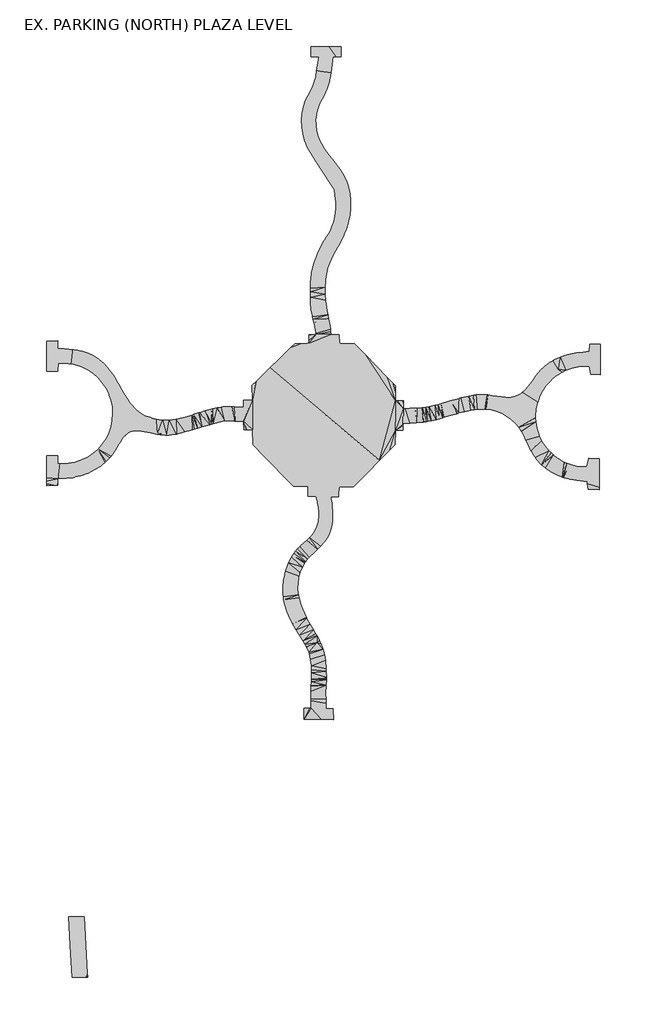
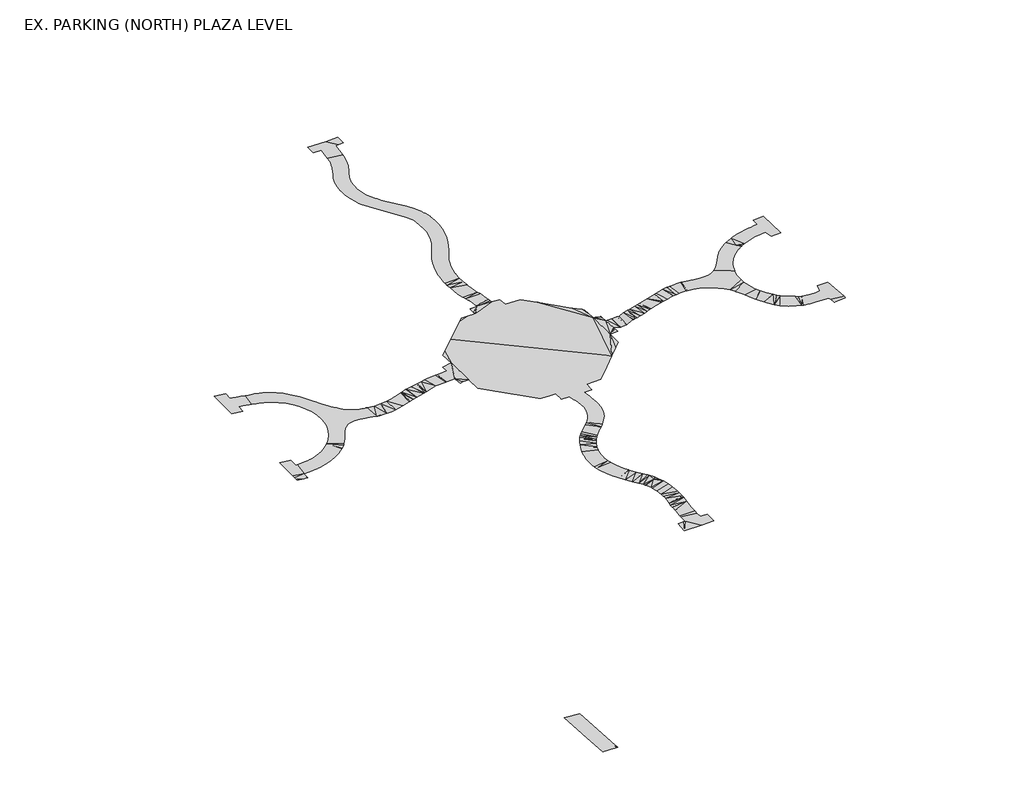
# One storey: 2 proxies.
"""IFC4 building model written with IfcOpenShell, lengths in millimetres."""

from ifc_helpers import new_model, si_unit, origin, place, context, project, spatial, triangles, element, save

model = new_model("IFC4")

# Units and contexts
model_context = context("Model", 3, world=origin())
ifc_project = project(units=[si_unit("LENGTHUNIT", "METRE", prefix="MILLI")], contexts=[model_context])

# Site, building, storey
site = spatial("IfcSite", under=ifc_project)
building = spatial("IfcBuilding", under=site)
storey = spatial("IfcBuildingStorey", under=building, Name="EX. PARKING (NORTH) PLAZA LEVEL", Elevation=290169.6)

# Proxies
placement = place(None, origin())
element("IfcBuildingElementProxy", 1, Name="Building Element Proxy", at=placement, inside=storey, context=model_context, shape_type="Tessellation", body=[
    triangles([(1659.2078808, 199821.5147461, 290510.9373047), (1861.2459846, 196461.7570313, 290489.5060547), (1865.358379, 196393.3705078, 290489.1897949), (2086.697049, 192712.6463379, 290473.5070312), (3472.877845, 192713.6881348, 290404.7112305), (3526.7286278, 192713.7253418, 290402.0881348), (3635.3987389, 192713.8183594, 290397.3070313), (3690.1285378, 192713.8555664, 290394.051416), (3885.7715378, 192714.0043945, 290384.3403809), (3874.2164291, 192906.1601074, 290385.2705566), (3858.3205971, 193170.4788574, 290389.1772949), (3460.4175591, 199787.3400879, 290431.3886719)], [[11, 3, 4], [12, 3, 11], [1, 2, 12], [12, 2, 3], [11, 4, 5], [7, 8, 10], [6, 7, 11], [7, 10, 11], [10, 8, 9], [6, 11, 5]], closed=False),
])
element("IfcBuildingElementProxy", 2, Name="Building Element Proxy", at=placement, inside=storey, context=model_context, shape_type="Tessellation", body=[
    triangles([(930.1321066, 264493.5486328, 290609.480127), (1700.6630539, 264447.7653809, 290507.9421387), (1951.4740528, 264399.2846191, 290474.4), (2235.9694782, 264344.3112305, 290474.4), (2458.5333641, 264301.3185059, 290474.4), (2997.6710953, 264121.1992676, 290474.4), (3190.6520485, 264056.7380859, 290474.4), (3884.3724953, 263718.2657227, 290474.4), (4527.7114243, 263291.7243164, 290474.4), (5109.5561417, 262784.4994629, 290474.4), (5619.8558075, 262205.353418, 290474.4), (6049.7958435, 261564.294873, 290474.4), (6391.9493774, 260872.3743164, 290474.4), (6430.6522476, 260758.5394043, 290474.4), (6640.4068863, 260141.5724121, 290474.4), (6790.8750275, 259384.4837402, 290474.4), (6840.7562851, 258614.2051758, 290474.4), (6789.1879211, 257844.0382324, 290474.4), (6637.0611603, 257087.2844238, 290474.4), (6387.0037491, 256357.0220215, 290474.4), (6043.3351913, 255665.864209, 290474.4), (5611.9917526, 255025.7358398, 290474.4), (5100.4247223, 254447.7060059, 290474.4), (4517.4701889, 253941.7647949, 290474.4), (3873.198468, 253516.6558594, 290474.4), (3178.7382408, 253179.6903809, 290474.4), (2878.9292152, 253080.2545898, 290474.4), (2446.0855774, 252936.7098633, 290474.4), (2112.7418255, 252873.0672363, 290474.4), (2009.4048191, 252853.3289063, 290474.4), (1687.896246, 252791.9373047, 290474.4), (917.2668308, 252747.8283691, 290474.4), (638.2296478, 252744.9448242, 290474.4), (403.263067, 252742.5263672, 290505.1144043), (386.3405897, 253673.2602539, 290521.0576172), (-898.8900455, 253669.186084, 290689.2147949), (-895.4728123, 251091.7806152, 290650.7613281), (-894.9464636, 250694.7443848, 290629.720752), (-894.9277874, 250680.6987305, 290629.3300781), (-894.5483774, 250394.5394531, 290624.5489746), (-894.2677259, 250182.8314453, 290610.9125977), (-88.0122877, 250201.6209961, 290525.8573242), (348.0125876, 250211.7599121, 290474.4), (371.4647172, 250212.3180176, 290474.4), (372.8776033, 250390.0932129, 290474.4), (377.7810831, 251007.0974121, 290482.8645996), (442.6727981, 251009.4972656, 290474.4), (891.2075203, 251026.0171875, 290474.4), (1404.0958363, 251056.1920898, 290474.4), (1961.5089054, 251120.5230469, 290474.4), (1976.078801, 251122.2159668, 290474.4), (1993.0747112, 251124.1693359, 290474.4), (2259.1778, 251154.8837402, 290474.4), (2383.274295, 251183.5889648, 290474.4), (2403.3944332, 251188.2584473, 290474.4), (2418.7089054, 251191.7931152, 290474.4), (3097.780101, 251348.9184082, 290474.4), (3909.304985, 251635.8590332, 290474.4), (3951.9090706, 251656.5647461, 290474.4), (4683.4972641, 252012.0593262, 290474.4), (5410.5726517, 252472.7939941, 290474.4), (5673.7019394, 252684.3903809, 290474.4), (5858.8330811, 252833.2743164, 290474.4), (5953.9644836, 252909.7719727, 290474.4), (6081.3439178, 253012.2029297, 290470.6234863), (6478.8958145, 253414.5411621, 290469.9165527), (6629.246521, 253602.0087891, 290474.4), (6832.7759583, 253855.7607422, 290474.4), (7139.2020218, 254331.1921875, 290474.4), (7309.9171829, 254626.5043945, 290474.4), (7478.8644287, 254922.8583984, 290474.4), (7521.0287155, 254993.7936035, 290474.4), (7612.5835922, 255147.8121094, 290474.4), (7615.5857346, 255152.8536621, 290474.4), (7659.2795792, 255226.3561523, 290474.4), (7676.0529739, 255252.140625, 290474.4), (7681.3654404, 255260.3075684, 290474.4), (7851.8515457, 255522.3194824, 290474.4), (7956.1695969, 255667.8733887, 290474.4), (8066.1268387, 255809.2229004, 290474.4), (8238.4517853, 256005.7504395, 290474.4), (8272.3514603, 256037.7484863, 290474.4), (8280.0306427, 256044.9852539, 290474.4), (8285.0285934, 256049.7105469, 290474.4), (8428.5285553, 256185.1441406, 290474.4), (8627.0914352, 256334.1396973, 290474.4), (8845.4693848, 256452.1790039, 290474.4), (9077.4662704, 256531.6718262, 290474.4), (9080.5108521, 256532.2485352, 290474.4), (9318.4812103, 256576.9713867, 290474.4), (9575.0382248, 256593.0076172, 290474.4), (9831.9928894, 256585.7336426, 290474.4), (10190.2977631, 256546.6104492, 290474.4), (10545.7202545, 256486.7071289, 290474.4), (11241.910318, 256347.515625, 290474.4), (11939.2607758, 256214.2772461, 290474.4), (12008.7030487, 256203.3011719, 290474.4), (12274.7972717, 256161.164209, 290467.7585449), (12388.4194061, 256147.2673828, 290465.414502), (12427.0856506, 256142.5420898, 290467.0330078), (12494.5861816, 256134.3007324, 290474.4), (12535.9255188, 256129.2405762, 290474.4), (12591.9907013, 256122.3758789, 290474.4), (12611.9987823, 256119.9388184, 290474.4), (13122.5908722, 256090.0987793, 290474.4), (13168.1462311, 256087.4384766, 290474.4), (13381.6018066, 256098.2843262, 290474.4), (13724.5238983, 256115.6972168, 290474.4), (14274.5159088, 256204.3801758, 290474.4), (15249.0017761, 256451.6208984, 290474.4), (15780.6716492, 256586.4963867, 290489.8595215), (16167.3678131, 256709.8004883, 290502.2122559), (16316.8924072, 256757.4626953, 290505.4492676), (16755.5179596, 256897.3239258, 290474.4), (17261.1173309, 257058.5233887, 290474.4), (18231.9255157, 257320.832959, 290474.4), (18364.8964691, 257356.7749512, 290474.4), (18575.774295, 257413.7575195, 290483.4599121), (19894.0996399, 257755.1134277, 290540.5727051), (21047.6687622, 257727.9150879, 290600.0109375), (21177.1376038, 257724.8641113, 290603.4525879), (22135.1070374, 257702.2608398, 290714.9248535), (22163.8076111, 256690.6574707, 290740.6907227), (22498.0174438, 256699.903418, 290779.2), (23186.3289185, 256718.9720215, 290779.2), (23239.962854, 254952.6240234, 290779.2), (24578.4323181, 253581.8611816, 290779.2), (27757.4359497, 250326.1529297, 290779.2), (27950.5450928, 250128.3975586, 290779.2), (28938.8173279, 250092.9950684, 290779.2), (29668.7099854, 250070.3545898, 290779.2), (29674.5956726, 249742.6350586, 290779.2), (29683.7625549, 249232.303418, 290779.2), (29688.8715454, 248947.8556641, 290779.2), (30575.5685852, 248916.6017578, 290779.2), (30689.4476807, 248544.9221191, 290779.2), (30763.4710693, 248281.3103027, 290779.2), (30794.5319641, 248170.6937988, 290779.2), (30916.075708, 247628.9966309, 290779.2), (30965.9959167, 247120.5997559, 290779.2), (30970.325885, 247076.5094238, 290779.2), (30956.4662659, 246521.5293457, 290779.2), (30903.1974243, 246163.7837402, 290779.2), (30874.7038147, 245972.4279785, 290779.2), (30823.9510986, 245789.5182129, 290779.2), (30726.2733398, 245437.4838867, 290779.2), (30545.1960205, 245023.2208008, 290779.2), (30310.0871155, 244637.0304199, 290779.2), (30025.2138062, 244285.9634766, 290779.2), (29824.1656128, 244074.4415039, 290779.2), (29613.4994019, 243872.4817383, 290779.2), (29542.3014221, 243809.3786133, 290779.2), (29171.5473083, 243480.7475098, 290723.5754883), (28732.2043579, 243086.0739258, 290657.0865234), (28710.519635, 243064.9589355, 290653.607666), (28452.7051392, 242813.8672852, 290635.7668945), (28440.5616943, 242800.3611328, 290634.8181152), (28191.867572, 242523.7268555, 290642.9478516), (28024.1847839, 242290.3643555, 290647.1522461), (27851.5116028, 242050.0441406, 290645.310498), (27707.0018188, 241789.4833008, 290641.2549316), (27568.6125916, 241539.9729492, 290614.0007813), (27405.2993042, 241181.5576172, 290576.0496094), (27260.4686096, 240815.2916016, 290537.9868164), (27053.1417297, 240190.9390137, 290474.4), (26892.8422119, 239552.8942383, 290474.4), (26814.2609619, 239099.6381836, 290474.4), (26780.4606995, 238904.6733398, 290474.4), (26779.0305542, 238887.9115723, 290474.4), (26759.4340759, 238658.1209473, 290474.4), (26745.9721069, 238500.2887207, 290474.4), (26722.4386597, 238224.3427734, 290474.4), (26735.2797363, 237541.6495605, 290474.4), (26747.3231873, 237443.9625, 290474.4), (26775.1168396, 237218.5623047, 290474.4), (26818.8420776, 236863.9606934, 290493.1895508), (26972.2303894, 236198.5873535, 290528.0897461), (27214.7481445, 235459.6557129, 290566.5246094), (27515.8204651, 234742.5645996, 290603.4897949), (27864.1154846, 234045.2862305, 290639.1899414), (28247.3176758, 233366.5741699, 290673.6994629), (28657.5810059, 232697.2010742, 290707.5950684), (29080.5575134, 232035.7716797, 290741.0069824), (29334.7443237, 231619.7970703, 290762.0847656), (29464.4154785, 231380.5558594, 290774.2700684), (29492.1951782, 231329.3217773, 290779.2), (29504.6548828, 231306.327832, 290779.2), (29567.0487488, 231191.2092773, 290779.2), (29762.4600769, 230709.210791, 290779.2), (29822.0424866, 230562.2430176, 290779.2), (29981.0769653, 229902.4507324, 290779.2), (30037.8479187, 229513.9907227, 290779.2), (30074.4015015, 229123.1122559, 290779.2), (30087.3518738, 228753.0325195, 290779.2), (30090.3354126, 228667.7912109, 290779.2), (30101.6951843, 228343.1970703, 290730.8122559), (30082.5498413, 227563.0214355, 290611.0056152), (30063.5161194, 227266.5186035, 290564.5898438), (30035.2690063, 226826.4338379, 290583.4538086), (30031.4436584, 226766.8467773, 290583.8444824), (30010.6472534, 226171.5528809, 290589.4813477), (30003.5895447, 225969.5187012, 290564.5898438), (30009.5473206, 225237.0796875, 290474.4), (30011.0704834, 225049.7050781, 290474.4), (30017.9979675, 224198.1477539, 290418.3290039), (29830.9210144, 224191.115625, 290415.9663574), (29205.9963684, 224167.6007813, 290414.7385254), (29186.2185059, 222876.2563477, 290342.9847656), (31162.7071655, 222859.2713379, 290341.7755371), (32616.2998352, 222846.7697754, 290355.8025879), (32571.9560303, 224111.6786133, 290438.718457), (31765.5912964, 224148.0298828, 290432.8769531), (31754.8756714, 224779.5448242, 290474.4), (31747.1877686, 225232.7636719, 290474.4), (31736.014032, 225891.1792969, 290555.4741211), (31782.3646912, 226855.4739258, 290674.2575684), (31800.6170654, 227528.4375, 290757.1362305), (31802.6727539, 227604.2654297, 290756.3548828), (31804.0540649, 227655.2018555, 290753.9364258), (31808.5096069, 227819.4708984, 290779.2), (31808.5398376, 227820.5126953, 290779.2), (31796.217334, 228465.7756348, 290779.2), (31791.0409058, 228736.7916504, 290779.2), (31789.9619019, 228793.3277344, 290780.2231934), (31707.9669067, 229762.8499512, 290792.6317383), (31605.35224, 230430.8835938, 290797.3384277), (31434.0092102, 231084.6669434, 290796.0361816), (31195.7842163, 231717.1678711, 290788.725), (31023.2342834, 232061.8538086, 290781.1905762), (31012.2814636, 232083.7501465, 290780.5208496), (31004.8865662, 232098.5213379, 290779.2), (30956.8801941, 232194.4224609, 290779.2), (30893.2468689, 232321.5402832, 290779.2), (30690.7080688, 232667.5842773, 290779.2), (30598.1532532, 232825.7327637, 290779.2), (30556.374408, 232893.3007324, 290779.2), (30290.9650269, 233322.632666, 290735.3515137), (29883.7875549, 234010.813916, 290666.4999023), (29503.7944702, 234714.3802734, 290598.9505371), (29462.1877075, 234800.6261719, 290591.0626465), (29242.8499329, 235255.2960938, 290567.7710449), (29007.8340454, 235807.9507324, 290539.2890625), (28809.0531555, 236364.3260742, 290510.4350098), (28647.9327576, 236932.7378906, 290480.7437988), (28622.2901367, 237053.5491211, 290474.4), (28539.3626404, 237444.2415527, 290474.4), (28515.0408691, 237558.8206055, 290474.4), (28505.732135, 237665.0652832, 290474.4), (28463.8625977, 238142.9337891, 290474.4), (28459.1745117, 238196.4188965, 290474.4), (28479.4407166, 238786.0759277, 290474.4), (28481.1592163, 238836.0635742, 290474.4), (28564.5983093, 239366.207959, 290474.4), (28580.6694214, 239468.3226563, 290474.4), (28624.2597839, 239621.1319336, 290474.4), (28745.4523865, 240045.9990234, 290517.0206543), (28756.2331238, 240083.8013672, 290518.0996582), (29005.2504822, 240673.4025879, 290531.0663086), (29247.9310181, 241095.9070313, 290537.2426758), (29324.0333496, 241228.4012695, 290536.0706543), (29383.5343689, 241306.5732422, 290534.4335449), (29615.8364685, 241611.7453125, 290555.939209), (29797.6835083, 241805.4451172, 290569.6686035), (29945.5791321, 241962.9796875, 290594.8019531), (30226.0945679, 242229.1959961, 290638.8364746), (30512.0375793, 242489.5708008, 290682.4989258), (30799.9734924, 242755.9731445, 290726.9427246), (31078.7564758, 243031.9376953, 290771.9818359), (31119.5307312, 243078.0, 290779.2), (31532.6938843, 243544.687793, 290779.2), (31926.6140259, 244104.8396484, 290779.2), (32187.2678833, 244606.2416016, 290779.2), (32374.7982971, 245139.3067383, 290779.2), (32485.4775879, 245693.4682617, 290779.2), (32526.4541565, 246074.7473145, 290779.2), (32530.6352966, 246172.9180664, 290779.2), (32540.3533081, 246401.0157715, 290779.2), (32542.776416, 246457.8681152, 290779.2), (32539.4347595, 246852.5416992, 290779.2), (32531.4166443, 247010.7832031, 290779.2), (32519.4638855, 247246.7315918, 290779.2), (32485.7845459, 247649.7581543, 290779.2), (32442.4081238, 248051.8731445, 290779.2), (32393.1250854, 248458.8436523, 290779.2), (32373.9053284, 248601.7558594, 290779.2), (32338.4842346, 248865.1630371, 290779.2), (33248.4984558, 248865.6467285, 290779.2), (33256.8026001, 249389.3729004, 290779.2), (33261.0442017, 249657.0216797, 290779.2), (33266.1624939, 249979.7926758, 290779.2), (34952.4921204, 250029.0361816, 290779.2), (36605.6633057, 251694.4787109, 290779.2), (38043.9894653, 253143.4879395, 290779.2), (39201.597876, 254309.6865234, 290729.6774414), (39855.3440186, 254968.2881836, 290729.9937012), (39896.0903687, 256602.3837891, 290695.3725586), (40792.6030884, 256648.8553711, 290714.4597656), (40789.4823486, 257257.5437988, 290701.158252), (40788.6498413, 257420.0083008, 290687.2986328), (41576.8063843, 257463.5591309, 290482.2692871), (41606.8696655, 257465.7543457, 290474.4), (42188.2806885, 257508.0773438, 290474.4), (42324.8909546, 257518.0302246, 290474.4), (42364.0746094, 257520.8765625, 290488.724707), (42949.8342041, 257581.2263672, 290702.3116699), (43143.1247314, 257608.0712402, 290772.5771484), (43146.2222168, 257608.4991211, 290771.5539551), (43171.5927612, 257612.0151855, 290779.2), (43283.2185059, 257627.5119141, 290779.2), (43533.1009277, 257662.2074707, 290779.2), (43675.6829224, 257688.7546875, 290779.2), (44110.8470581, 257769.772998, 290820.6300293), (44683.0121338, 257903.9043457, 290875.4173828), (45062.9191772, 258004.3819336, 290911.936084), (45441.0960937, 258111.1661133, 290948.3803711), (45560.6329834, 258147.2941406, 290959.9145508), (46384.4710693, 258396.3394043, 290969.9790527), (47125.7700073, 258610.6146973, 290979.8575195), (47331.2458374, 258669.9971191, 290969.2349121), (47902.6993286, 258819.829834, 290940.8645508), (47926.6420532, 258825.243457, 290939.7297363), (48478.9432251, 258949.9986328, 290954.3707031), (48735.5136108, 258996.1725586, 290961.8679199), (49125.7037476, 259066.3822266, 290947.4874023), (49467.4084717, 259096.631543, 290936.4741211), (49780.2916992, 259124.3321777, 290942.6876953), (50341.3597778, 259123.4950195, 290956.1752441), (50437.4422852, 259123.3647949, 290954.798584), (51081.114624, 259031.184375, 290949.1617188), (51709.0716431, 258862.4318848, 290946.7432617), (52151.3702271, 258684.3032227, 290947.3571777), (52312.2348267, 258619.5071777, 290945.7572754), (52881.879126, 258305.9635254, 290943.5992676), (53409.7724854, 257926.3029785, 290945.2921875), (53888.2874634, 257486.0507812, 290950.8360352), (54310.4989014, 256991.5321289, 290960.1005859), (54625.6610596, 256517.1052734, 290971.3929199), (54670.3048462, 256449.909375, 290968.9744629), (54861.7536255, 256106.1722168, 290958.8913574), (55038.4777222, 255754.621582, 290949.7384277), (55156.4984253, 255500.7021973, 290943.7294922), (55536.9263672, 254682.2033203, 290957.5146973), (55745.3043457, 254266.0054688, 290963.7654785), (55756.8338745, 254242.9743164, 290963.5608398), (55999.5539429, 253815.9306152, 290957.9425781), (56236.9627075, 253490.629541, 290950.1477051), (56449.6148438, 253199.2426758, 290915.7312012), (56969.3738159, 252640.0395996, 290839.7730469), (57421.3880859, 252256.565332, 290779.2), (57542.1667603, 252154.097168, 290779.2), (57551.547583, 252146.1348633, 290779.2), (58161.1010742, 251742.2711426, 290779.2), (58187.9831543, 251724.4675781, 290779.2), (58426.2802368, 251604.4004883, 290779.2), (58869.7740967, 251380.9350586, 290779.2), (59426.5494141, 251178.7334473, 290779.2), (59436.5022949, 251175.1243652, 290779.9255371), (59587.3768066, 251120.3370117, 290790.3993164), (60157.2722534, 250969.0904297, 290831.9409668), (60278.4834595, 250945.2593262, 290841.075293), (60735.8276367, 250855.3485352, 290871.7896973), (61125.7712769, 250794.3290039, 290896.8300293), (61517.0078613, 250742.2577637, 290921.3122559), (61910.1838623, 250694.9490234, 290945.5526367), (62303.9272705, 250652.6074219, 290969.4767578), (62352.2126953, 250379.0985352, 290991.6893555), (62462.4896851, 249754.4668945, 290978.648291), (63738.9234009, 249720.2922363, 291082.4745117), (63739.7373047, 250000.29375, 291092.4645996), (63749.4250854, 253343.0478516, 290852.7583008), (62501.9849487, 253402.5977051, 290782.3439941), (62266.6737305, 252406.2492188, 290841.4845703), (61752.3283813, 252376.5952148, 290816.3512207), (61010.6852783, 252473.2032715, 290770.0842773), (60287.3061768, 252663.1637695, 290718.0874512), (59938.3181763, 252804.215625, 290689.4566406), (59654.7726929, 252918.7946777, 290779.2), (59651.233374, 252920.2271484, 290779.2), (59593.8880371, 252943.4071289, 290779.2), (58941.6394775, 253309.3754883, 290779.2), (58819.67948, 253399.9187988, 290779.2), (58690.7571167, 253495.6152832, 290779.2), (58341.1133423, 253755.1715332, 290779.2), (58331.0302368, 253764.8825684, 290779.2), (58088.4171387, 253998.1892578, 290813.1700195), (57802.0253174, 254273.5770996, 290825.5041504), (57333.086499, 254856.2206055, 290842.4147461), (56970.0388916, 255447.7937988, 290851.9955566), (56941.8871216, 255493.6514648, 290851.5676758), (56742.6341675, 255936.0430664, 290843.7914063), (56634.7477295, 256175.5819336, 290849.2422363), (56416.6447632, 256890.980127, 290859.1207031), (56291.098938, 257628.2746582, 290863.194873), (56271.6675659, 258097.2506836, 290862.0600586), (56260.1380371, 258375.5406738, 290850.8235352), (56324.2736572, 259120.7044922, 290818.2115723), (56482.4546997, 259851.6924316, 290783.6834473), (56513.6062866, 259939.63125, 290779.2), (56701.3808716, 260469.8500488, 290779.2), (56732.1371338, 260556.6912598, 290779.2), (57057.2428711, 261200.4845215, 290779.2), (57069.2700439, 261224.2970215, 290779.2), (57488.4119019, 261843.7196777, 290779.2), (57772.4875854, 262166.2116211, 290779.2), (57982.7724243, 262404.9505371, 290779.2), (58038.1457886, 262453.6359375, 290779.2), (58190.2899902, 262587.4510254, 290779.2), (58544.3660522, 262898.873877, 290779.2), (58879.057251, 263124.9810059, 290779.2), (58929.444873, 263159.0254395, 290779.2), (59164.1096191, 263317.5459961, 290779.2), (59361.75802, 263417.1678223, 290779.2), (59370.0784424, 263421.3722168, 290779.2), (59392.8956543, 263432.8691895, 290777.7489258), (59831.9758301, 263654.1766113, 290799.403418), (60537.1653442, 263903.3334961, 290836.4988281), (61268.2695557, 264060.961084, 290877.1661133), (62013.4705811, 264124.5292969, 290920.7169434), (62542.0290161, 264120.7341797, 290952.6777832), (62739.3053467, 263177.1638672, 290985.1223145), (63837.1918213, 263166.838916, 291051.5554688), (63845.2703979, 266706.3624023, 290974.9461914), (62636.7906738, 266695.2561035, 290902.2994629), (62571.7760376, 265828.1090332, 290917.275293), (62200.9196045, 265803.9616699, 290895.4347656), (61830.9421875, 265768.8010254, 290873.8918945), (61460.0904053, 265731.4265625, 290852.3490234), (61090.1641479, 265685.7549316, 290831.0293945), (60538.3606201, 265597.3696289, 290799.6824707), (59992.6078857, 265477.1537109, 290769.3773438), (59275.3167847, 265254.0231445, 290730.998291), (59168.6907349, 265207.0492676, 290725.584668), (58587.8796753, 264951.1765137, 290761.1545898), (58352.0847656, 264813.5477051, 290776.8001465), (58325.6724243, 264798.1253906, 290779.2), (58209.6515991, 264730.4085938, 290779.2), (57939.1239258, 264572.4833496, 290779.2), (57848.8457153, 264505.027002, 290779.2), (57774.2363159, 264449.2722656, 290779.2), (57671.9588379, 264372.8490234, 290779.2), (57337.3839111, 264122.836377, 290779.2), (56790.3893921, 263607.9654785, 290779.2), (56699.2182129, 263500.213916, 290779.2), (56598.6383057, 263381.3560547, 290779.2), (56305.1631958, 263034.5121094, 290779.2), (56300.3216309, 263027.572998, 290779.2), (55987.3314331, 262578.1678711, 290779.2), (55678.9130493, 262115.4054199, 290779.2), (55387.1355103, 261733.6054688, 290779.2), (55063.2808594, 261378.6317871, 290779.2), (55027.0923706, 261346.336084, 290779.2), (54731.8359741, 261082.8544922, 290779.2), (54709.3629272, 261062.7999023, 290780.6324707), (54316.4427246, 260797.0486816, 290802.1009277), (53903.3749146, 260607.3114258, 290820.9648926), (53460.8623901, 260503.3549805, 290837.0569336), (53091.4988892, 260477.7751465, 290847.9399902), (52721.4935669, 260491.2068848, 290857.241748), (52246.8481201, 260546.5895508, 290867.5666992), (51774.9559937, 260621.9151855, 290876.9986816), (51752.7945557, 260625.5986816, 290877.445166), (51219.994519, 260714.2444336, 290881.6123535), (50675.7812256, 260785.1424316, 290886.6539063), (50662.130896, 260786.9283691, 290886.2446289), (50111.1459229, 260824.0237793, 290871.3060059), (49559.0772949, 260810.4804199, 290858.7114258), (49323.0916992, 260783.9332031, 290854.3023926), (49003.2507568, 260747.9540039, 290864.9808105), (48974.592041, 260742.8566406, 290866.0412109), (48452.5262329, 260650.2111328, 290850.6933105), (47904.7782715, 260525.381543, 290836.2383789), (47533.3637329, 260428.3456055, 290827.1970703), (47361.2300537, 260383.3623047, 290835.736084), (47293.8667236, 260363.8472168, 290839.2335449), (46286.928186, 260072.1440918, 290825.8576172), (45215.0168701, 259752.7775391, 290812.3700684), (44857.950293, 259654.8858398, 290807.161084), (44499.2093994, 259563.3193359, 290801.3753906), (43777.2906738, 259405.8405762, 290787.4599609), (43469.4210938, 259359.182959, 290779.813916), (43463.0121826, 259358.1969727, 290779.2), (43461.4448364, 259357.9737305, 290779.2), (43046.7445679, 259295.0938477, 290679.2805176), (42964.1031006, 259287.9687012, 290659.1329102), (42458.1246826, 259244.269043, 290474.4), (42310.589502, 259231.5442383, 290474.4), (42188.0527954, 259226.1306152, 290474.4), (41565.3745239, 259198.6346191, 290474.4), (41023.2680786, 259186.2446777, 290474.4), (40819.6293457, 259181.5937988, 290526.8061035), (40809.4439209, 259816.6062012, 290474.4), (40804.448877, 260128.0662598, 290474.4), (40704.3480103, 260126.4477539, 290474.4), (40121.6626465, 260117.0529785, 290624.0094727), (39884.7003662, 260113.2206543, 290618.7818848), (39893.6114502, 261093.5329102, 290597.648291), (39900.3040649, 261829.2461426, 290532.2197266), (39665.1695801, 262071.7057617, 290571.2685059), (38919.8941406, 262840.1611816, 290537.8565918), (36307.34198, 265533.9502441, 290526.4340332), (35110.7289734, 266767.7912109, 290524.3504395), (33329.8051208, 266794.2082031, 290558.7111328), (33291.2074768, 267838.9072266, 290537.8379883), (32364.8663452, 267851.3529785, 290555.7531738), (32318.5714966, 268157.3063965, 290550.3209473), (32274.0160767, 268451.7628418, 290555.2322754), (32160.8532166, 269199.6241699, 290555.8833984), (32071.1168335, 269669.6605957, 290556.8321777), (32070.5912842, 269672.413916, 290556.7205566), (31984.5872314, 270145.9850098, 290539.270459), (31902.9340759, 270619.7979492, 290521.6529297), (31828.9711487, 271094.8759277, 290503.7005371), (31737.7209045, 271809.9206543, 290476.0371094), (31734.4350586, 271850.4205078, 290474.4), (31679.4267883, 272528.4070313, 290474.4), (31659.9233276, 273335.2973145, 290474.4), (31703.9927307, 274099.2878906, 290474.4), (31706.401886, 274141.0713867, 290474.4), (31731.3933838, 274319.1814453, 290474.4), (31818.5508545, 274940.352832, 290474.4), (31962.328125, 275563.0869141, 290474.4), (32162.0484924, 276170.194043, 290474.4), (32270.9395203, 276421.5833496, 290474.4), (32396.6806824, 276711.8912109, 290474.4), (32416.0655457, 276756.6512695, 290474.4), (32633.8220215, 277183.3415039, 290474.4), (32865.6055481, 277602.590332, 290474.4), (33102.6608459, 278014.4907715, 290474.4), (33131.3288635, 278064.3109863, 290474.4), (33226.7323425, 278230.0869141, 290474.4), (33573.7762756, 278865.4899902, 290474.4), (33842.7412537, 279428.4881836, 290474.4), (33887.5617737, 279522.3057129, 290474.4), (33897.5634888, 279547.9599609, 290474.4), (34151.8247131, 280200.5526855, 290474.4), (34396.9144043, 281014.1774414, 290474.4), (34482.2929138, 281441.9094727, 290474.4), (34487.9460571, 281470.242627, 290474.4), (34500.7592285, 281534.4433594, 290474.4), (34563.2437866, 281847.4661133, 290474.4), (34640.9995056, 282611.3636719, 290474.4), (34649.2896973, 282692.8284668, 290474.4), (34654.140564, 283520.0895996, 290474.4), (34654.273114, 283542.544043, 290474.4), (34585.0378052, 284310.534375, 290474.4), (34577.1173584, 284347.6111816, 290474.4), (34423.9034546, 285064.6278809, 290474.4), (34343.8246216, 285297.5625, 290474.4), (34237.6078491, 285606.511084, 290474.4), (34173.2071289, 285793.8298828, 290474.4), (33836.5974426, 286487.5921875, 290474.4), (33418.960144, 287135.8130859, 290474.4), (32701.0853577, 288101.9680664, 290474.4), (31940.3852783, 289034.8041504, 290474.4), (31658.1908752, 289423.7478516, 290474.4), (31434.1440857, 289769.2895508, 290474.4), (31396.7510193, 289826.9604492, 290474.4), (31080.6772888, 290409.6039551, 290474.4), (30836.6154419, 291025.9012207, 290474.4), (30781.5164795, 291235.4884277, 290474.4), (30668.0792175, 291666.9597656, 290474.4), (30577.4917236, 292323.6080566, 290474.4), (30563.6693115, 292988.348877, 290474.4), (30576.3034241, 293092.7332031, 290474.4), (30643.5644348, 293648.4016113, 290474.4), (30702.0422607, 293866.7324707, 290474.4), (30815.5888184, 294290.6507813, 290474.4), (30970.2072876, 294653.3635254, 290474.4), (31076.3147644, 294902.2785645, 290474.4), (31151.4822693, 295041.5630859, 290474.4), (31304.833374, 295325.7131836, 290474.4), (31536.4517944, 295747.4734863, 290474.4), (31719.4266724, 296146.9281738, 290474.4), (31835.7288757, 296400.8103516, 290474.4), (31837.8380493, 296407.1913574, 290474.4), (32061.28255, 297083.1128906, 290474.4), (32152.3816406, 297423.464209, 290474.4), (32186.281897, 297550.1169434, 290474.4), (32301.3888245, 298019.6324707, 290474.4), (32308.4000244, 298071.0525879, 290474.4), (32355.366925, 298415.5524902, 290474.4), (32612.9791077, 300305.0185547, 290363.8579102), (32950.1678284, 300308.5532227, 290360.8627441), (33516.4169861, 300314.4877441, 290386.3495605), (33546.5035217, 301452.9112793, 290365.2159668), (32135.275708, 301467.8871094, 290301.108252), (29996.336499, 301490.5647949, 290317.5537598), (29985.4511169, 300327.4171875, 290384.3775879), (30920.4080017, 300315.5109375, 290377.308252), (30678.6692688, 298658.0865234, 290474.4), (30589.1049683, 298044.0030762, 290474.4), (30549.5027344, 297772.4661621, 290474.4), (30507.114624, 297657.3104004, 290474.4), (30288.4442505, 297063.2257324, 290474.4), (30223.8458679, 296887.720166, 290474.4), (29862.584198, 296098.9869141, 290474.4), (29831.2558777, 296030.5817871, 290474.4), (29572.9972229, 295564.861377, 290474.4), (29374.0535522, 295206.0925781, 290474.4), (29148.1673401, 294474.248877, 290474.4), (29139.5446106, 294446.3063965, 290474.4), (29086.6850464, 294171.290625, 290474.4), (28989.4607483, 293665.4610352, 290474.4), (28930.5480652, 292934.2498535, 290474.4), (28925.6018555, 292872.8768555, 290474.4), (28948.7306763, 292078.0602539, 290474.4), (29058.5728088, 291290.5362305, 290474.4), (29253.8074036, 290519.7181641, 290474.4), (29407.2003662, 290109.1757812, 290474.4), (29532.1020447, 289774.8706055, 290474.4), (30567.9016113, 288167.0617676, 290474.4), (32319.8574646, 285447.618457, 290474.4), (32757.8888672, 284767.697168, 290474.4), (32780.42005, 284579.9690918, 290474.4), (32820.826886, 284243.3012695, 290474.4), (32836.6026672, 284090.3803711, 290474.4), (32875.0259033, 283717.9379883, 290474.4), (32877.1978638, 283686.6282715, 290474.4), (32908.9261597, 283229.1678223, 290474.4), (32911.1492798, 283197.1139648, 290474.4), (32920.6045166, 282675.0993164, 290474.4), (32918.0907166, 282636.1249512, 290474.4), (32878.7093994, 282025.1296875, 290474.4), (32876.0490967, 281983.8856934, 290474.4), (32836.8956726, 281776.2890625, 290474.4), (32747.6685608, 281303.2388672, 290474.4), (32563.6425842, 280725.7299316, 290474.4), (32537.3720947, 280643.2791504, 290474.4), (32332.4822754, 280160.4435059, 290474.4), (32093.0457275, 279693.7557129, 290474.4), (31963.4675903, 279466.7370117, 290474.4), (31919.3912109, 279392.8996582, 290474.4), (31829.475769, 279242.2855957, 290474.4), (31584.5674622, 278844.2819824, 290474.4), (31556.3575562, 278798.4429199, 290474.4), (31321.1091248, 278408.5876465, 290474.4), (31287.1018982, 278352.2375977, 290474.4), (31097.6809021, 278012.4443848, 290474.4), (31062.0644714, 277940.8766602, 290474.4), (30924.351947, 277664.1679688, 290474.4), (30770.5101746, 277305.2317383, 290474.4), (30633.0697266, 276939.7098633, 290474.4), (30422.9755737, 276320.4360352, 290474.4), (30333.494989, 276017.3661621, 290474.4), (30237.8008301, 275693.2557129, 290474.4), (30098.6023499, 275102.6871094, 290474.4), (30062.2115479, 274867.2596191, 290474.4), (30005.9173096, 274503.0399902, 290474.4), (30005.6382568, 274499.3564941, 290474.4), (29960.3131165, 273898.0164551, 290474.4), (29945.5605286, 273375.6111328, 290474.4), (29944.1792175, 273261.7204102, 290474.4), (29939.2260315, 272853.0197754, 290492.1477539), (29939.3655579, 272200.1852051, 290520.2390625), (29959.9294189, 271547.6668945, 290547.6234375), (30034.0969849, 270772.3467773, 290578.4866699), (30177.004541, 270006.7004883, 290606.5779785), (30191.9919983, 269944.453125, 290608.7545898), (30268.5966248, 269626.2399902, 290607.6755859), (30368.9486389, 269247.9933105, 290606.1314941), (30438.2304565, 268995.6924316, 290605.0338867), (30509.6214478, 268743.9868652, 290603.8804688), (30594.9790283, 267979.6614258, 290604.0479004), (30608.2968201, 267860.3942871, 290602.2061523), (30053.7632263, 267827.5032715, 290619.7864746), (29768.0829895, 267810.5368652, 290627.8790039), (29769.1340881, 267747.4709473, 290628.0650391), (29778.9590698, 267158.2417969, 290620.7910645), (29784.8703369, 266803.7332031, 290628.027832), (28817.8712219, 266780.1625488, 290647.4685059), (28130.2411011, 266763.4007813, 290669.5508789), (27690.5795654, 266336.7105469, 290678.7596191), (26342.2409363, 265028.1020508, 290732.2819336), (25223.3650452, 263942.1962402, 290779.2), (24160.6717712, 262910.817334, 290779.2), (23579.5653809, 262346.8517578, 290779.2), (23142.4129944, 261922.5799805, 290737.9746094), (23154.4401672, 260221.6605469, 290777.0978027), (22105.5111694, 260159.9526855, 290656.9562988), (22115.0780273, 259370.5311035, 290675.578418), (21021.637793, 259422.0814453, 290547.7722656), (20982.9494568, 259421.3745117, 290543.3074219), (20810.1948853, 259418.2305176, 290538.9541992), (19753.2407959, 259399.0316895, 290485.7853516), (19499.7830109, 259347.3325195, 290474.4), (19235.9049316, 259293.4939453, 290474.4), (19050.2790527, 259255.6171875, 290474.4), (18531.3386353, 259141.2055664, 290474.4), (18349.6660034, 259101.1521973, 290488.5944824), (17656.5897034, 258925.181543, 290541.037793), (16971.9163788, 258718.9429688, 290590.4115234), (16894.8466644, 258693.009668, 290595.7693359), (16309.5800629, 258496.054248, 290582.6166504), (16124.232074, 258433.6766602, 290576.5705078), (15269.4575043, 258170.4183105, 290549.6698242), (14747.5172699, 258033.9429199, 290534.3219238), (14218.9030243, 257926.1913574, 290520.0902344), (13439.1878265, 257837.0805176, 290502.1378418), (12654.4334015, 257844.8009766, 290488.3340332), (11876.6227386, 257949.2597168, 290478.8648438), (11428.7640289, 258067.0199707, 290475.9254883), (11380.0588623, 258079.8191895, 290474.4), (11315.6534912, 258096.7669922, 290474.4), (11117.6318573, 258148.8382324, 290474.4), (10580.1588501, 258367.5039551, 290474.4), (10077.0837433, 258656.6583984, 290474.4), (9617.6001617, 259010.9995605, 290474.4), (9277.5668472, 259355.7041016, 290474.4), (9231.8423126, 259402.045459, 290474.4), (9220.1284927, 259413.9331055, 290474.4), (9210.1029419, 259424.090625, 290474.4), (9197.1479187, 259439.6617676, 290474.4), (8979.7257248, 259701.1713867, 290474.4), (8942.1158112, 259751.5311035, 290474.4), (8764.1115601, 259989.8979492, 290474.4), (8557.5584702, 260291.9260254, 290474.4), (8360.6867661, 260600.3723145, 290474.4), (8127.6818024, 260989.2602051, 290474.4), (8055.965831, 261108.9552246, 290474.4), (7888.4388474, 261388.584668, 290474.4), (7522.3594482, 262029.140918, 290474.4), (7432.5143509, 262186.340625, 290474.4), (7240.0400528, 262508.3116699, 290474.4), (7153.4354553, 262653.1772461, 290474.4), (6862.0747513, 263112.4422363, 290474.4), (6556.3846893, 263550.5364258, 290474.4), (6226.9309616, 263971.0316895, 290474.4), (5740.1536972, 264492.7486816, 290474.4), (5191.6900818, 264949.1859375, 290474.4), (4590.230864, 265333.0880859, 290474.4), (3945.307148, 265638.4089844, 290474.4), (3267.1372055, 265860.2745117, 290474.4), (3136.8759705, 265890.5982422, 290474.4), (2744.9496025, 265981.8484863, 290474.4), (2269.8152321, 266060.9134277, 290474.4), (2216.0689487, 266069.8617188, 290474.4), (2140.7353203, 266078.8844238, 290474.4), (1678.0834728, 266134.3042969, 290535.772998), (1138.2004383, 266180.2177734, 290607.1174805), (775.5602188, 266206.0208496, 290654.9657227), (412.6732847, 266228.0846191, 290702.7767578), (419.7264153, 267085.1671875, 290714.4969727), (-916.6587284, 267071.1401367, 290889.2211914), (-911.9954229, 263553.8664551, 290836.7220703), (413.1972353, 263559.4475098, 290663.3559082), (453.3669491, 264474.9265137, 290671.5972656), (1975.3653271, 251126.9040527, 290474.4), (2405.4257046, 251197.0207031, 290474.4), (30726.9314392, 231846.1646484, 290779.2), (30997.4312073, 232069.9835449, 290779.2), (9209.0855621, 259398.0084961, 290474.4), (12491.7258911, 256228.6763672, 290474.4), (11402.6226013, 258043.0400391, 290474.4), (43164.304834, 257649.2780273, 290779.2), (58949.6436401, 263787.5080078, 290779.2), (58354.1776611, 264742.4636719, 290779.2)], [[41, 42, 40], [39, 40, 42], [38, 39, 42], [42, 46, 38], [43, 44, 45], [45, 46, 42], [34, 46, 47], [33, 47, 48], [45, 42, 43], [38, 46, 37], [46, 34, 37], [49, 32, 48], [47, 33, 34], [37, 34, 36], [33, 48, 32], [31, 32, 49], [49, 50, 31], [747, 50, 51], [747, 51, 52], [53, 30, 747], [53, 747, 52], [747, 30, 31], [50, 747, 31], [748, 53, 54], [249, 172, 173], [173, 174, 248], [172, 250, 171], [170, 171, 250], [175, 247, 174], [251, 169, 170], [244, 176, 177], [168, 252, 167], [251, 168, 169], [167, 252, 166], [246, 175, 176], [55, 56, 748], [748, 56, 57], [55, 748, 54], [27, 57, 58], [57, 28, 748], [58, 59, 26], [254, 165, 166], [62, 24, 61], [60, 61, 25], [25, 59, 60], [30, 53, 748], [178, 243, 177], [24, 62, 63], [34, 35, 36], [30, 748, 29], [28, 57, 27], [748, 28, 29], [26, 59, 25], [26, 27, 58], [25, 61, 24], [66, 23, 65], [64, 65, 23], [24, 63, 64], [67, 23, 66], [68, 22, 67], [64, 23, 24], [23, 67, 22], [69, 21, 22], [22, 68, 69], [70, 71, 21], [70, 21, 69], [73, 74, 21], [72, 73, 21], [71, 72, 21], [21, 74, 75], [20, 75, 76], [75, 20, 21], [20, 78, 79], [20, 77, 78], [20, 76, 77], [125, 126, 127], [19, 83, 84], [19, 81, 82], [19, 80, 81], [20, 79, 80], [100, 752, 99], [100, 101, 752], [99, 752, 98], [102, 752, 101], [698, 105, 106], [752, 104, 105], [103, 104, 752], [106, 107, 698], [103, 752, 102], [108, 698, 107], [82, 83, 19], [19, 84, 85], [239, 180, 181], [181, 238, 239], [182, 238, 181], [186, 749, 185], [185, 749, 184], [234, 183, 184], [187, 749, 186], [207, 208, 206], [183, 237, 182], [245, 246, 176], [176, 244, 245], [246, 247, 175], [249, 173, 248], [248, 174, 247], [250, 172, 249], [241, 179, 180], [241, 180, 240], [244, 177, 243], [243, 178, 242], [241, 242, 179], [180, 239, 240], [187, 188, 749], [205, 206, 208], [197, 198, 217], [201, 202, 215], [200, 201, 216], [215, 202, 203], [216, 199, 200], [216, 198, 199], [196, 222, 195], [223, 194, 195], [221, 196, 197], [204, 214, 203], [191, 226, 190], [190, 227, 189], [182, 237, 238], [189, 227, 749], [189, 749, 188], [225, 191, 192], [749, 234, 184], [194, 224, 193], [183, 234, 235], [183, 236, 237], [236, 183, 235], [193, 225, 192], [204, 205, 213], [208, 209, 205], [253, 166, 252], [252, 168, 251], [164, 257, 163], [162, 163, 258], [166, 253, 254], [170, 250, 251], [256, 164, 165], [255, 165, 254], [257, 258, 163], [257, 164, 256], [255, 256, 165], [162, 258, 161], [161, 259, 160], [158, 159, 261], [128, 129, 130], [160, 260, 159], [157, 262, 156], [158, 262, 157], [263, 155, 156], [154, 155, 264], [154, 264, 153], [130, 131, 127], [259, 161, 258], [262, 158, 261], [261, 159, 260], [151, 152, 267], [156, 262, 263], [155, 263, 264], [152, 153, 266], [153, 265, 266], [151, 267, 150], [152, 266, 267], [149, 150, 269], [153, 264, 265], [270, 148, 149], [133, 134, 135], [135, 132, 133], [131, 132, 135], [272, 146, 147], [136, 286, 135], [135, 290, 131], [286, 136, 137], [147, 148, 271], [127, 131, 292], [138, 285, 137], [160, 259, 260], [130, 127, 128], [234, 749, 233], [178, 179, 242], [293, 674, 127], [80, 19, 20], [85, 86, 19], [86, 18, 19], [18, 86, 87], [707, 18, 87], [707, 87, 88], [706, 90, 91], [707, 89, 90], [91, 92, 706], [707, 88, 89], [705, 706, 92], [714, 16, 17], [17, 18, 751], [713, 17, 751], [713, 714, 17], [712, 713, 751], [751, 711, 712], [16, 714, 715], [707, 708, 751], [751, 18, 707], [751, 710, 711], [710, 751, 709], [708, 709, 751], [90, 706, 707], [92, 93, 705], [97, 700, 96], [97, 98, 752], [699, 97, 752], [753, 94, 95], [96, 700, 95], [97, 699, 700], [105, 699, 752], [697, 698, 109], [110, 697, 109], [112, 695, 111], [110, 111, 695], [694, 112, 113], [699, 105, 698], [109, 698, 108], [702, 753, 701], [753, 702, 703], [701, 753, 700], [705, 93, 704], [703, 704, 753], [753, 704, 94], [696, 697, 110], [694, 695, 112], [114, 693, 694], [696, 110, 695], [753, 95, 700], [694, 113, 114], [704, 93, 94], [744, 745, 746], [1, 2, 738], [746, 1, 740], [744, 746, 743], [731, 6, 7], [5, 6, 733], [735, 3, 4], [2, 3, 737], [732, 6, 731], [5, 734, 4], [1, 738, 739], [1, 739, 740], [743, 741, 742], [741, 743, 746], [740, 741, 746], [734, 735, 4], [737, 738, 2], [3, 736, 737], [3, 735, 736], [5, 733, 734], [733, 6, 732], [7, 8, 730], [720, 13, 14], [721, 13, 720], [12, 721, 722], [721, 12, 13], [12, 722, 723], [14, 15, 719], [717, 15, 16], [717, 16, 716], [719, 720, 14], [15, 718, 719], [15, 717, 718], [16, 715, 716], [728, 9, 10], [729, 9, 728], [730, 731, 7], [8, 729, 730], [10, 11, 726], [8, 9, 729], [11, 724, 725], [725, 726, 11], [10, 727, 728], [10, 726, 727], [11, 12, 724], [12, 723, 724], [115, 692, 693], [115, 691, 692], [691, 115, 116], [690, 691, 116], [115, 693, 114], [690, 116, 117], [681, 120, 121], [120, 683, 119], [119, 687, 118], [689, 117, 118], [680, 121, 122], [118, 688, 689], [687, 688, 118], [686, 687, 119], [685, 686, 119], [117, 689, 690], [119, 684, 685], [119, 683, 684], [120, 682, 683], [682, 120, 681], [680, 678, 679], [680, 681, 121], [122, 678, 680], [124, 125, 122], [122, 125, 678], [677, 678, 676], [675, 676, 678], [678, 125, 674], [122, 123, 124], [675, 678, 674], [125, 127, 674], [672, 670, 671], [669, 670, 672], [673, 669, 672], [674, 293, 673], [665, 667, 668], [664, 665, 668], [665, 666, 667], [668, 669, 664], [662, 507, 661], [663, 506, 662], [659, 660, 509], [658, 659, 510], [510, 657, 658], [673, 502, 669], [660, 661, 508], [669, 504, 664], [606, 562, 605], [560, 607, 608], [606, 607, 561], [560, 608, 559], [651, 652, 516], [516, 650, 651], [655, 514, 654], [648, 649, 519], [517, 649, 650], [512, 655, 656], [608, 609, 559], [603, 565, 602], [602, 566, 601], [601, 566, 600], [599, 600, 567], [604, 605, 563], [598, 599, 568], [570, 597, 598], [588, 589, 587], [564, 603, 604], [596, 597, 571], [648, 519, 647], [656, 657, 511], [647, 520, 646], [646, 520, 645], [521, 644, 645], [653, 654, 515], [644, 521, 643], [522, 642, 643], [557, 610, 611], [560, 561, 607], [523, 641, 642], [652, 653, 516], [609, 610, 558], [564, 565, 603], [604, 563, 564], [575, 594, 595], [593, 594, 576], [576, 592, 593], [566, 602, 565], [562, 606, 561], [572, 595, 596], [590, 591, 580], [578, 591, 592], [566, 567, 600], [562, 563, 605], [505, 663, 664], [267, 268, 150], [216, 217, 198], [749, 229, 750], [750, 230, 231], [230, 750, 229], [750, 231, 232], [749, 750, 232], [201, 215, 216], [190, 226, 227], [226, 191, 225], [228, 229, 749], [227, 228, 749], [203, 214, 215], [213, 214, 204], [274, 144, 145], [274, 143, 144], [143, 276, 142], [269, 150, 268], [283, 138, 139], [148, 270, 271], [269, 270, 149], [281, 140, 141], [279, 141, 142], [282, 139, 140], [749, 232, 233], [271, 272, 147], [205, 209, 212], [213, 205, 212], [217, 218, 197], [194, 223, 224], [197, 218, 219], [197, 219, 220], [193, 224, 225], [211, 212, 210], [221, 222, 196], [220, 221, 197], [195, 222, 223], [212, 209, 210], [273, 145, 146], [280, 281, 141], [274, 275, 143], [145, 273, 274], [146, 272, 273], [277, 142, 276], [142, 277, 278], [280, 141, 279], [142, 278, 279], [143, 275, 276], [282, 140, 281], [138, 283, 284], [137, 285, 286], [138, 284, 285], [139, 282, 283], [288, 289, 286], [286, 289, 290], [290, 291, 292], [292, 293, 127], [288, 286, 287], [131, 290, 292], [294, 295, 296], [293, 294, 296], [491, 494, 490], [296, 495, 293], [495, 296, 490], [673, 293, 495], [296, 299, 490], [495, 490, 494], [299, 296, 298], [493, 491, 492], [493, 494, 491], [298, 296, 297], [135, 286, 290], [300, 301, 488], [301, 302, 488], [304, 487, 303], [487, 302, 303], [305, 485, 304], [754, 306, 307], [754, 307, 308], [754, 309, 310], [309, 754, 308], [754, 310, 483], [306, 754, 305], [754, 484, 305], [299, 489, 490], [489, 300, 488], [487, 304, 486], [486, 304, 485], [302, 487, 488], [754, 483, 484], [484, 485, 305], [310, 482, 483], [311, 481, 482], [481, 311, 480], [311, 312, 480], [311, 482, 310], [489, 299, 300], [495, 500, 673], [350, 382, 349], [348, 386, 347], [348, 349, 383], [382, 350, 351], [380, 354, 379], [353, 354, 380], [352, 380, 381], [380, 352, 353], [352, 381, 351], [354, 355, 379], [382, 351, 381], [344, 387, 343], [345, 387, 344], [342, 343, 388], [387, 388, 343], [342, 388, 389], [345, 346, 387], [386, 348, 385], [384, 348, 383], [386, 387, 346], [346, 347, 386], [384, 385, 348], [349, 382, 383], [361, 374, 360], [362, 374, 361], [375, 358, 359], [360, 375, 359], [373, 362, 363], [367, 368, 369], [367, 369, 366], [365, 366, 369], [373, 363, 364], [369, 372, 365], [372, 364, 365], [356, 357, 376], [376, 357, 375], [356, 376, 377], [378, 379, 355], [355, 377, 378], [355, 356, 377], [375, 360, 374], [374, 362, 373], [371, 372, 370], [372, 369, 370], [375, 357, 358], [364, 372, 373], [479, 312, 313], [314, 478, 313], [316, 476, 315], [315, 477, 314], [317, 476, 316], [319, 320, 474], [475, 317, 318], [471, 321, 322], [320, 321, 472], [471, 472, 321], [475, 318, 319], [479, 313, 478], [478, 314, 477], [319, 474, 475], [475, 476, 317], [315, 476, 477], [470, 323, 324], [472, 473, 320], [325, 468, 324], [326, 466, 325], [465, 326, 327], [473, 474, 320], [470, 322, 323], [312, 479, 480], [339, 340, 392], [338, 339, 392], [336, 337, 393], [394, 335, 336], [338, 392, 337], [342, 390, 341], [390, 342, 389], [341, 390, 391], [393, 337, 392], [392, 340, 391], [340, 341, 391], [394, 336, 393], [457, 332, 333], [458, 331, 332], [461, 329, 330], [462, 328, 329], [330, 331, 459], [335, 395, 334], [395, 335, 394], [334, 395, 396], [396, 397, 454], [334, 396, 455], [456, 333, 334], [327, 328, 464], [397, 398, 452], [517, 650, 516], [520, 647, 519], [519, 649, 518], [518, 649, 517], [657, 510, 511], [659, 509, 510], [514, 515, 654], [655, 513, 514], [512, 656, 511], [516, 653, 515], [637, 638, 526], [526, 638, 639], [636, 637, 527], [527, 635, 636], [640, 526, 639], [634, 635, 528], [643, 521, 522], [633, 634, 530], [633, 530, 632], [631, 632, 531], [522, 523, 642], [520, 521, 645], [655, 512, 513], [509, 660, 508], [661, 507, 508], [641, 524, 525], [641, 523, 524], [662, 506, 507], [504, 502, 503], [504, 669, 502], [527, 637, 526], [526, 640, 525], [663, 505, 506], [640, 641, 525], [530, 634, 529], [529, 634, 528], [532, 629, 630], [534, 628, 629], [632, 530, 531], [635, 527, 528], [531, 532, 630], [533, 629, 532], [535, 628, 534], [534, 629, 533], [630, 631, 531], [628, 535, 627], [505, 664, 504], [609, 558, 559], [570, 598, 569], [569, 598, 568], [611, 554, 555], [555, 556, 611], [557, 611, 556], [557, 558, 610], [612, 553, 611], [571, 597, 570], [572, 573, 595], [574, 595, 573], [576, 594, 575], [595, 574, 575], [576, 577, 592], [596, 571, 572], [579, 580, 591], [591, 578, 579], [589, 582, 586], [580, 581, 590], [589, 590, 581], [592, 577, 578], [589, 586, 587], [554, 611, 553], [568, 599, 567], [626, 627, 535], [624, 625, 539], [546, 615, 616], [625, 626, 536], [622, 623, 540], [621, 622, 541], [543, 618, 619], [544, 617, 618], [619, 620, 543], [624, 540, 623], [545, 616, 617], [549, 550, 613], [612, 552, 553], [581, 582, 589], [614, 547, 613], [612, 613, 550], [551, 552, 612], [612, 550, 551], [583, 584, 585], [585, 586, 583], [546, 614, 615], [583, 586, 582], [621, 542, 620], [535, 536, 626], [462, 463, 328], [329, 461, 462], [324, 469, 470], [470, 471, 322], [467, 468, 325], [459, 331, 458], [457, 333, 456], [461, 330, 460], [334, 455, 456], [460, 330, 459], [332, 457, 458], [469, 324, 468], [496, 498, 499], [498, 496, 497], [502, 673, 500], [464, 465, 327], [464, 328, 463], [467, 325, 466], [397, 453, 454], [326, 465, 466], [396, 454, 455], [398, 451, 452], [452, 453, 397], [451, 399, 450], [400, 449, 450], [401, 448, 449], [400, 450, 399], [401, 402, 448], [400, 401, 449], [445, 403, 404], [402, 403, 447], [448, 402, 447], [444, 404, 405], [447, 403, 446], [405, 443, 444], [406, 442, 405], [445, 446, 403], [404, 444, 445], [442, 406, 407], [755, 408, 409], [755, 409, 410], [419, 420, 421], [408, 441, 407], [755, 410, 411], [451, 398, 399], [442, 407, 441], [538, 625, 537], [501, 502, 500], [441, 408, 440], [755, 438, 439], [437, 756, 436], [438, 755, 437], [439, 440, 755], [405, 442, 443], [542, 621, 541], [624, 539, 540], [613, 548, 549], [548, 613, 547], [541, 622, 540], [625, 538, 539], [542, 543, 620], [547, 614, 546], [616, 545, 546], [617, 544, 545], [544, 618, 543], [537, 625, 536], [755, 412, 413], [755, 440, 408], [755, 433, 756], [435, 756, 434], [756, 435, 436], [433, 434, 756], [755, 413, 414], [755, 756, 437], [432, 755, 415], [414, 415, 755], [427, 417, 418], [429, 416, 417], [430, 415, 416], [425, 418, 419], [433, 755, 432], [432, 415, 431], [430, 431, 415], [429, 430, 416], [428, 429, 417], [426, 427, 418], [428, 417, 427], [424, 422, 423], [422, 424, 419], [426, 418, 425], [419, 424, 425], [419, 421, 422], [411, 412, 755], [499, 500, 495], [495, 496, 499]], closed=False),
])

save(model, "model.ifc")
